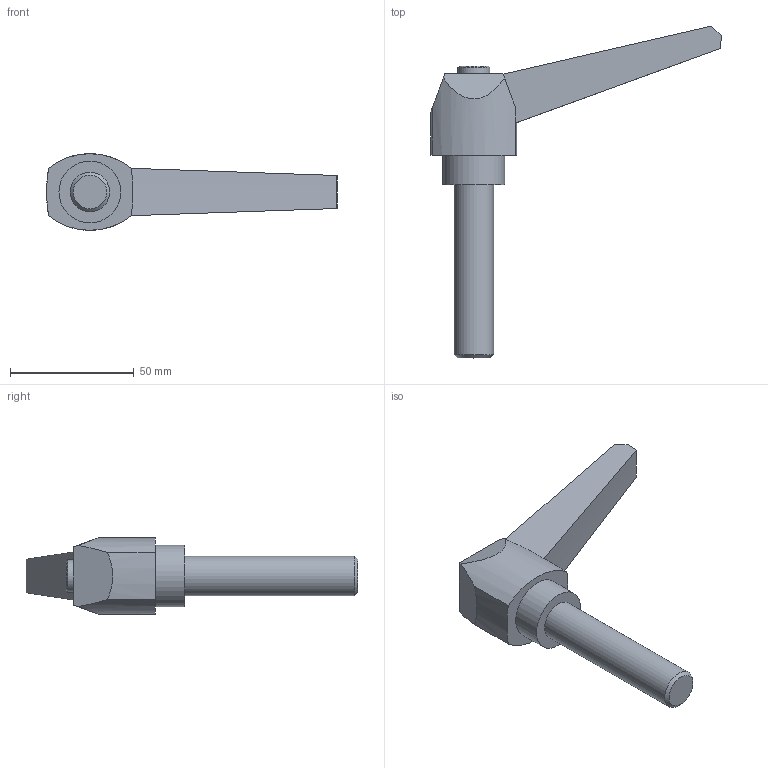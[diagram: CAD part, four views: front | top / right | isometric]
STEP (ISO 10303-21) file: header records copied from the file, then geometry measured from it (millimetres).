
FILE_DESCRIPTION( ( 'STEP AP203' ), '1' );
FILE_NAME( 'C:/Temp/Ganter_Step_05_03_2020/data/2_1/gn_500/gn_500_ms/Adjustable hand lever GN 500-100-M16-70-SW.stp', '2020-03-05T11:26:40', ( 'License CC BY-ND 4.0' ), ( 'CADENAS' ), ' ', 'PARTsolutions', ' ' );
FILE_SCHEMA( ( 'CONFIG_CONTROL_DESIGN' ) );
Length unit declared in the file: millimetre
Products named in the file (1): _Adjustable hand lever GN 500-100-M16-70-SW
Bounding box: 117.62 x 134.28 x 31 mm (x, y, z)
Volume: 70450.7 mm3; surface area: 14868.2 mm2
Topology: 1 solids, 1 shells, 24 faces, 56 edges, 37 vertices
Faces by surface type: plane 11, cylinder 7, cone 6
Full cylindrical faces by diameter (mm): 13 x1, 16 x1, 25 x1
Entity records: 709 total; most frequent: CARTESIAN_POINT 124, DIRECTION 118, ORIENTED_EDGE 100, EDGE_CURVE 50, AXIS2_PLACEMENT_3D 47, VERTEX_POINT 36, EDGE_LOOP 32, FACE_OUTER_BOUND 27
